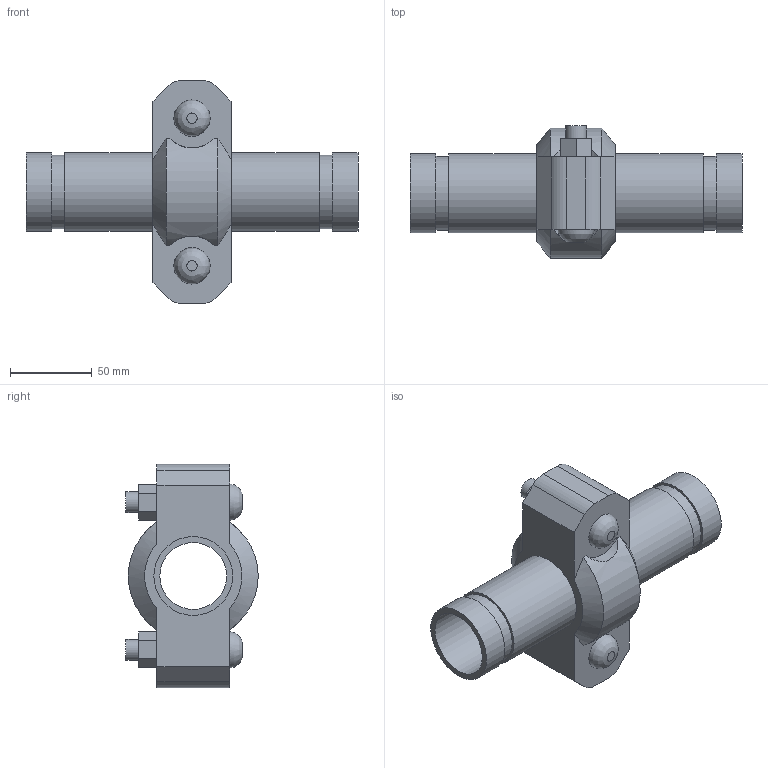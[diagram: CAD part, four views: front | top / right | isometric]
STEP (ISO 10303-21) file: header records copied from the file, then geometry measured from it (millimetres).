
FILE_DESCRIPTION(/* description */ ('VIC EXPANSION JOINT 1 COUPLING COMPRESSED STYLE 155 (OGS)','CAx-IF Rec.Pracs.---Representation and Presentation of Product Manufacturing Information (PMI)---4.0---2014-10-13'),/* implementation_level */ '2;1');
FILE_NAME(/* name */ 'C:\Users\kkamble\AppData\Roaming\Autodesk\ApplicationPlugins\Victaulic.Temp\A74\Victaulic_IPS_Expansion Joint_Compressed_1 Coupling_Style 155 (OGS)_1.5 (40).stp',/* time_stamp */ '2021-06-27T00:14:08+02:00',/* author */ ('kkamble'),/* organization */ ('Victaulic'),/* preprocessor_version */ 'ST-DEVELOPER v17.2',/* originating_system */ 'Autodesk Inventor 2019',/* authorisation */ '');
FILE_SCHEMA (('AP242_MANAGED_MODEL_BASED_3D_ENGINEERING_MIM_LF { 1 0 10303 442 1 1 4 }'));
Length unit declared in the file: inch
Products named in the file (3): 155-01.5; Nipple-01.5; 077-01.5
Assembly tree (3 placements, depth 2):
  155-01.5
    Nipple-01.5  x2
    077-01.5
Bounding box: 203.2 x 81.03 x 136.65 mm (x, y, z)
Volume: 360609.9 mm3; surface area: 105227.5 mm2
Topology: 3 solids, 5 shells, 81 faces, 199 edges, 142 vertices
Faces by surface type: plane 46, cylinder 29, cone 4, bspline 2
Full cylindrical faces by diameter (mm): 12.7 x4, 14.605 x2, 40.894 x2, 45.085 x4, 48.26 x7
Entity records: 2423 total; most frequent: CARTESIAN_POINT 514, DIRECTION 371, ORIENTED_EDGE 338, EDGE_CURVE 169, AXIS2_PLACEMENT_3D 141, VERTEX_POINT 118, LINE 89, VECTOR 89
